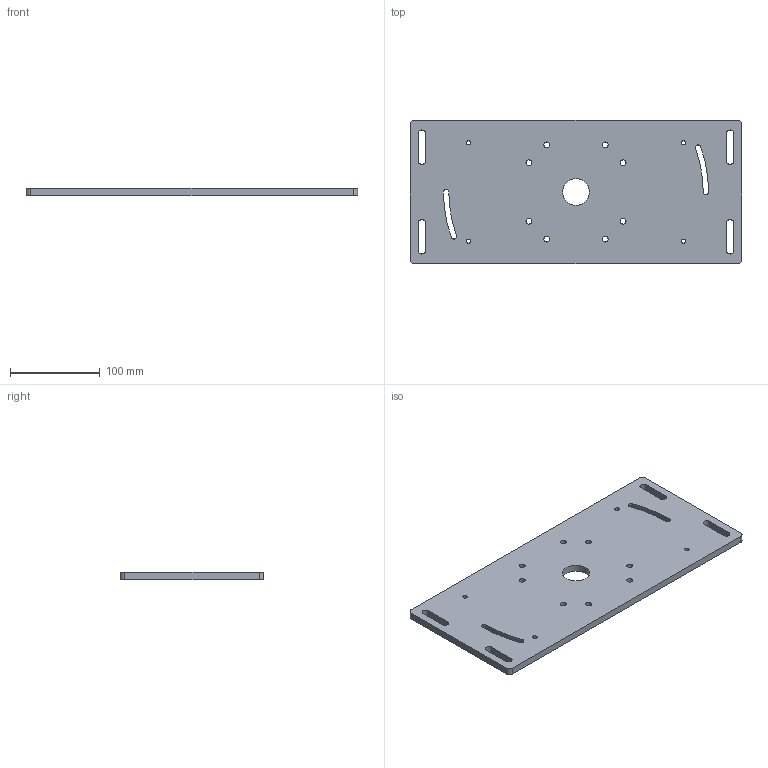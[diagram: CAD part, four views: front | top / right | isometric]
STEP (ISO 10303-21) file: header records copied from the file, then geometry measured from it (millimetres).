
FILE_DESCRIPTION(/* description */ ('Alibre Inc.'),/* implementation_level */ '2;1');
FILE_NAME(/* name */ 'export1',/* time_stamp */ '2015-11-10T14:33:18+01:00',/* author */ (''),/* organization */ (''),/* preprocessor_version */ 'ST-DEVELOPER v14',/* originating_system */ 'Alibre',/* authorisation */ '');
FILE_SCHEMA (('CONFIG_CONTROL_DESIGN'));
Length unit declared in the file: centimetre
Products named in the file (1): ID_1
Bounding box: 370 x 160 x 8 mm (x, y, z)
Volume: 446826.2 mm3; surface area: 128237.6 mm2
Topology: 1 solids, 1 shells, 57 faces, 159 edges, 106 vertices
Faces by surface type: cylinder 41, plane 16
Full cylindrical faces by diameter (mm): 4.917 x4, 6.647 x8, 30.1 x1
Entity records: 1955 total; most frequent: DIRECTION 326, CARTESIAN_POINT 309, ORIENTED_EDGE 292, EDGE_CURVE 146, AXIS2_PLACEMENT_3D 139, EDGE_LOOP 110, FACE_BOUND 110, VERTEX_POINT 106
